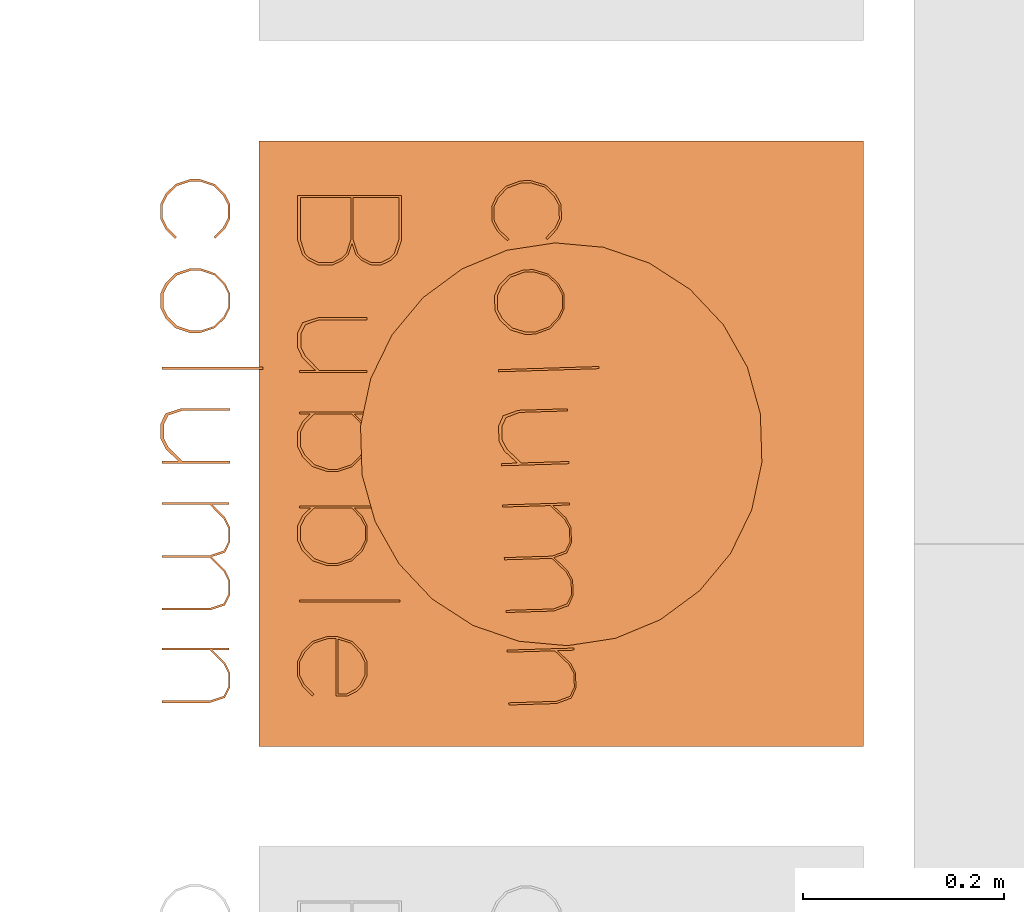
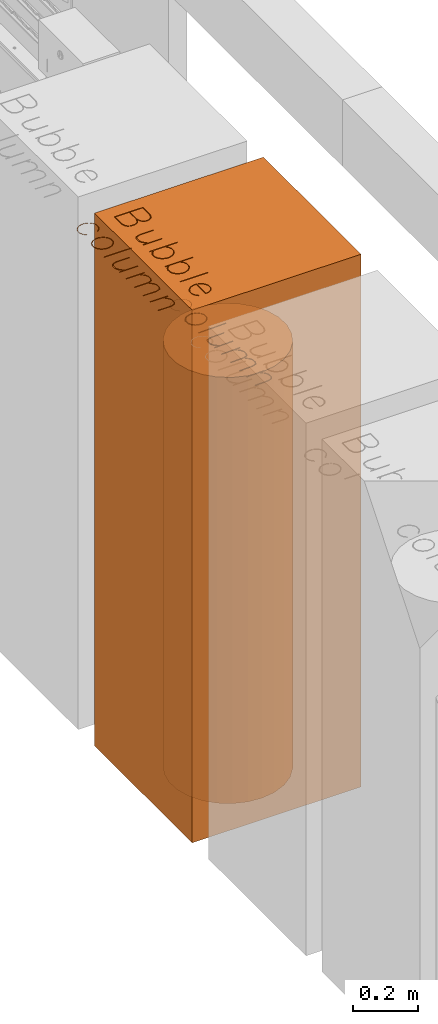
# One storey, part 10 of 43: 2 proxies.
"""IFC2X3 building model written with IfcOpenShell, lengths in metres."""

from ifc_helpers import new_model, entity, si_unit, converted_unit, derived_unit, direction, frame, origin, place, context, subcontext, project, spatial, face_set, surface_model, source, transform, mapped, material, material_list, type_object, type_shapes, element, save


model = new_model("IFC2X3")

# Units and contexts
model_context = context("Model", 3, precision=1e-05, world=origin(), true_north=direction((6.12303176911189e-17, 1.0)))
body_context = subcontext(model_context, "Body", "Model", "MODEL_VIEW")
ifc_project = project(units=[si_unit("LENGTHUNIT", "METRE"), si_unit("AREAUNIT", "SQUARE_METRE"), si_unit("VOLUMEUNIT", "CUBIC_METRE"), converted_unit("PLANEANGLEUNIT", "DEGREE", entity("IfcRatioMeasure", 0.0174532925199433), si_unit("PLANEANGLEUNIT", "RADIAN"), dimensions=[0, 0, 0, 0, 0, 0, 0]), si_unit("MASSUNIT", "GRAM", prefix="KILO"), derived_unit("MASSDENSITYUNIT", [(si_unit("MASSUNIT", "GRAM", prefix="KILO"), 1), (si_unit("LENGTHUNIT", "METRE"), -3)]), derived_unit("MOMENTOFINERTIAUNIT", [(si_unit("LENGTHUNIT", "METRE"), 4)]), si_unit("TIMEUNIT", "SECOND"), si_unit("FREQUENCYUNIT", "HERTZ"), si_unit("THERMODYNAMICTEMPERATUREUNIT", "DEGREE_CELSIUS"), derived_unit("THERMALTRANSMITTANCEUNIT", [(si_unit("MASSUNIT", "GRAM", prefix="KILO"), 1), (si_unit("THERMODYNAMICTEMPERATUREUNIT", "KELVIN"), -1), (si_unit("TIMEUNIT", "SECOND"), -3)]), derived_unit("VOLUMETRICFLOWRATEUNIT", [(si_unit("LENGTHUNIT", "METRE"), 3), (si_unit("TIMEUNIT", "SECOND"), -1)]), si_unit("ELECTRICCURRENTUNIT", "AMPERE"), si_unit("ELECTRICVOLTAGEUNIT", "VOLT"), si_unit("POWERUNIT", "WATT"), si_unit("FORCEUNIT", "NEWTON", prefix="KILO"), si_unit("ILLUMINANCEUNIT", "LUX"), si_unit("LUMINOUSFLUXUNIT", "LUMEN"), si_unit("LUMINOUSINTENSITYUNIT", "CANDELA"), derived_unit("USERDEFINED", [(si_unit("MASSUNIT", "GRAM", prefix="KILO"), -1), (si_unit("LENGTHUNIT", "METRE"), -2), (si_unit("TIMEUNIT", "SECOND"), 3), (si_unit("LUMINOUSFLUXUNIT", "LUMEN"), 1)]), derived_unit("LINEARVELOCITYUNIT", [(si_unit("LENGTHUNIT", "METRE"), 1), (si_unit("TIMEUNIT", "SECOND"), -1)]), si_unit("PRESSUREUNIT", "PASCAL"), derived_unit("USERDEFINED", [(si_unit("LENGTHUNIT", "METRE"), -2), (si_unit("MASSUNIT", "GRAM", prefix="KILO"), 1), (si_unit("TIMEUNIT", "SECOND"), -2)]), derived_unit("LINEARFORCEUNIT", [(si_unit("MASSUNIT", "GRAM", prefix="KILO"), 1), (si_unit("LENGTHUNIT", "METRE"), 1), (si_unit("TIMEUNIT", "SECOND"), -2), (si_unit("LENGTHUNIT", "METRE"), -1)]), derived_unit("PLANARFORCEUNIT", [(si_unit("MASSUNIT", "GRAM", prefix="KILO"), 1), (si_unit("LENGTHUNIT", "METRE"), 1), (si_unit("TIMEUNIT", "SECOND"), -2), (si_unit("LENGTHUNIT", "METRE"), -2)])], contexts=[model_context])

# Site, building, storey
site_placement = place(None, origin())
site = spatial("IfcSite", under=ifc_project, at=site_placement, Name="Default", CompositionType="ELEMENT")
building_placement = place(site_placement, origin())
building = spatial("IfcBuilding", under=site, at=building_placement, CompositionType="ELEMENT")
storey_placement = place(building_placement, frame((0.0, 0.0, 3.0)))
storey = spatial("IfcBuildingStorey", under=building, at=storey_placement, Name="01 OG", CompositionType="ELEMENT", Elevation=3.0)

# Proxies
ifc_material_1 = material(Name="dh_Stellfläche")
building_element_proxy_type_1 = type_object("IfcBuildingElementProxyType", Name="dh_Gerät_Stellfläche Bestand:Nutzergerät", PredefinedType="NOTDEFINED", material=ifc_material_1)
shared_shape_1 = source(origin(), body_context, "Body", "SurfaceModel", [
    surface_model("IfcFaceBasedSurfaceModel", [(-0.199099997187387, -0.507671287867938, 2.005), (-0.187681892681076, -0.503831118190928, 2.005), (-0.182484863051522, -0.498736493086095, 2.005), (-0.177569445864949, -0.488726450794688, 2.005), (-0.177569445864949, -0.478511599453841, 2.005), (-0.182484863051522, -0.468424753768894, 2.005), (-0.187681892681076, -0.46338133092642, 2.005), (-0.202351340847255, -0.458414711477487, 2.005), (-0.246385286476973, -0.458414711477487, 2.005), (-0.246385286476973, -0.561638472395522, 2.005), (-0.202351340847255, -0.561638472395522, 2.005), (-0.187681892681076, -0.556799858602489, 2.005), (-0.182484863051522, -0.551679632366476, 2.005), (-0.177569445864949, -0.541669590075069, 2.005), (-0.177569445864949, -0.526692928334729, 2.005), (-0.182484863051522, -0.516606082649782, 2.005), (-0.187681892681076, -0.511511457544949, 2.005), (-0.202607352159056, -0.508746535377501, 2.005), (-0.188731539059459, -0.513329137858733, 2.005), (-0.184353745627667, -0.517834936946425, 2.005), (-0.179771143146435, -0.52692333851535, 2.005), (-0.179771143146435, -0.540671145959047, 2.005), (-0.184353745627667, -0.549785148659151, 2.005), (-0.188731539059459, -0.554290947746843, 2.005), (-0.202607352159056, -0.558873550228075, 2.005), (-0.244260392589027, -0.558873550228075, 2.005), (-0.244260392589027, -0.508746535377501, 2.005), (-0.244260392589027, -0.506544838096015, 2.005), (-0.244260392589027, -0.461128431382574, 2.005), (-0.202607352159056, -0.461128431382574, 2.005), (-0.188731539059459, -0.465711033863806, 2.005), (-0.184353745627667, -0.470216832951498, 2.005), (-0.179771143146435, -0.479330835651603, 2.005), (-0.179771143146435, -0.488291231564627, 2.005), (-0.184353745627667, -0.497456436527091, 2.005), (-0.188731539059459, -0.501885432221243, 2.005), (-0.202607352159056, -0.506544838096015, 2.005), (-0.0728096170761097, -0.543922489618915, 2.005), (-0.0728096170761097, -0.559999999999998, 2.005), (-0.0706079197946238, -0.559999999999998, 2.005), (-0.0706079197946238, -0.492822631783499, 2.005), (-0.0728096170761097, -0.492822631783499, 2.005), (-0.0728096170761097, -0.540031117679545, 2.005), (-0.0866854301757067, -0.553778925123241, 2.005), (-0.095773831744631, -0.558361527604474, 2.005), (-0.109521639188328, -0.558361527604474, 2.005), (-0.118354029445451, -0.553906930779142, 2.005), (-0.123013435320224, -0.540287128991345, 2.005), (-0.123013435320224, -0.492822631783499, 2.005), (-0.125138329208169, -0.492822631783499, 2.005), (-0.125138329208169, -0.541413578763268, 2.005), (-0.120274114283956, -0.556646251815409, 2.005), (-0.110059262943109, -0.561638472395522, 2.005), (-0.0952362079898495, -0.561638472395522, 2.005), (-0.0852773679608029, -0.556774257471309, 2.005), (-0.0317454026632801, -0.559999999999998, 2.005), (-0.0296205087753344, -0.559999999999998, 2.005), (-0.0296205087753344, -0.548863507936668, 2.005), (-0.0218377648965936, -0.55682545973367, 2.005), (-0.0118789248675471, -0.561638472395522, 2.005), (0.00291852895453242, -0.561638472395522, 2.005), (0.0128261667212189, -0.55682545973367, 2.005), (0.0226570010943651, -0.546866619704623, 2.005), (0.0275724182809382, -0.532094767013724, 2.005), (0.0275724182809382, -0.522212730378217, 2.005), (0.0226570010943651, -0.507440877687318, 2.005), (0.0128261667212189, -0.497482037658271, 2.005), (0.00291852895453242, -0.492617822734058, 2.005), (-0.0118789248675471, -0.492617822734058, 2.005), (-0.0218377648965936, -0.497482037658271, 2.005), (-0.0296205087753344, -0.505367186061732, 2.005), (-0.0296205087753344, -0.460053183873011, 2.005), (-0.0317454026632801, -0.460053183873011, 2.005), (-0.0296205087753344, -0.508004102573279, 2.005), (-0.02045530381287, -0.499043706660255, 2.005), (-0.0113413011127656, -0.494384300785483, 2.005), (0.00240650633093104, -0.494384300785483, 2.005), (0.0114949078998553, -0.499043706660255, 2.005), (0.0207113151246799, -0.50813210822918, 2.005), (0.0253707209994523, -0.522007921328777, 2.005), (0.0253707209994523, -0.531249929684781, 2.005), (0.0207113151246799, -0.545125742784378, 2.005), (0.0114949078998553, -0.554290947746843, 2.005), (0.00240650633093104, -0.558873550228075, 2.005), (-0.0113413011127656, -0.558873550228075, 2.005), (-0.02045530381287, -0.554290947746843, 2.005), (-0.0296205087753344, -0.545253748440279, 2.005), (0.0616475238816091, -0.559999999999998, 2.005), (0.0637724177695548, -0.559999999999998, 2.005), (0.0637724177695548, -0.548863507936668, 2.005), (0.0715551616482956, -0.55682545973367, 2.005), (0.0815140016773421, -0.561638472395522, 2.005), (0.0963114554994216, -0.561638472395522, 2.005), (0.106219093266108, -0.55682545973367, 2.005), (0.116049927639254, -0.546866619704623, 2.005), (0.120965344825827, -0.532094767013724, 2.005), (0.120965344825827, -0.522212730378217, 2.005), (0.116049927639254, -0.507440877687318, 2.005), (0.106219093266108, -0.497482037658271, 2.005), (0.0963114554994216, -0.492617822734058, 2.005), (0.0815140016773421, -0.492617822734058, 2.005), (0.0715551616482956, -0.497482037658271, 2.005), (0.0637724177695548, -0.505367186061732, 2.005), (0.0637724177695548, -0.460053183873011, 2.005), (0.0616475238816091, -0.460053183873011, 2.005), (0.0637724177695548, -0.508004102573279, 2.005), (0.0729376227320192, -0.499043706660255, 2.005), (0.0820516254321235, -0.494384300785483, 2.005), (0.0957994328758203, -0.494384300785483, 2.005), (0.104887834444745, -0.499043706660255, 2.005), (0.114104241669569, -0.50813210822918, 2.005), (0.118763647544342, -0.522007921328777, 2.005), (0.118763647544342, -0.531249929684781, 2.005), (0.114104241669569, -0.545125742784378, 2.005), (0.104887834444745, -0.554290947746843, 2.005), (0.0957994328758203, -0.558873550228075, 2.005), (0.0820516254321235, -0.558873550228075, 2.005), (0.0729376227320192, -0.554290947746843, 2.005), (0.0637724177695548, -0.545253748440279, 2.005), (0.155040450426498, -0.559999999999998, 2.005), (0.157165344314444, -0.559999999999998, 2.005), (0.157165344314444, -0.460053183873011, 2.005), (0.155040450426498, -0.460053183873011, 2.005), (0.250276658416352, -0.547199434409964, 2.005), (0.248612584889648, -0.545535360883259, 2.005), (0.239242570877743, -0.554982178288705, 2.005), (0.230154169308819, -0.559564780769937, 2.005), (0.216406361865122, -0.559564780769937, 2.005), (0.207292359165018, -0.554982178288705, 2.005), (0.197999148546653, -0.54579137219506, 2.005), (0.193416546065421, -0.531889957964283, 2.005), (0.193416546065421, -0.523646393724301, 2.005), (0.250532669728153, -0.523646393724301, 2.005), (0.250532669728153, -0.512714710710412, 2.005), (0.24561725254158, -0.502730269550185, 2.005), (0.240573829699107, -0.497686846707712, 2.005), (0.23066619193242, -0.492822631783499, 2.005), (0.215868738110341, -0.492822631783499, 2.005), (0.205909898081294, -0.497686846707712, 2.005), (0.196155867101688, -0.507671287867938, 2.005), (0.191240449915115, -0.522366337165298, 2.005), (0.191240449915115, -0.532222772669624, 2.005), (0.196155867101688, -0.546917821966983, 2.005), (0.205909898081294, -0.55685106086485, 2.005), (0.215868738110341, -0.561638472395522, 2.005), (0.23066619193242, -0.561638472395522, 2.005), (0.240573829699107, -0.55685106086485, 2.005), (0.193826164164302, -0.521444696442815, 2.005), (0.197999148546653, -0.508746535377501, 2.005), (0.207292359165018, -0.499658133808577, 2.005), (0.216406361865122, -0.494998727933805, 2.005), (0.230154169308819, -0.494998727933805, 2.005), (0.239242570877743, -0.499658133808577, 2.005), (0.243748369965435, -0.504163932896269, 2.005), (0.248330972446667, -0.513277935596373, 2.005), (0.248330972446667, -0.521444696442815, 2.005), (-0.203580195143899, -0.6832458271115, 2.005), (-0.205244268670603, -0.681581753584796, 2.005), (-0.214614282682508, -0.691028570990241, 2.005), (-0.223702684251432, -0.695611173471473, 2.005), (-0.237450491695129, -0.695611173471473, 2.005), (-0.246564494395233, -0.691028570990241, 2.005), (-0.255857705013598, -0.681837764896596, 2.005), (-0.26044030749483, -0.667936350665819, 2.005), (-0.26044030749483, -0.658694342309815, 2.005), (-0.255857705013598, -0.644767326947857, 2.005), (-0.246564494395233, -0.635653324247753, 2.005), (-0.237450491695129, -0.630993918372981, 2.005), (-0.223702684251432, -0.630993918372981, 2.005), (-0.214614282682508, -0.635653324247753, 2.005), (-0.205244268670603, -0.645048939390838, 2.005), (-0.203580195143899, -0.643436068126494, 2.005), (-0.213283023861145, -0.633733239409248, 2.005), (-0.223190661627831, -0.628869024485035, 2.005), (-0.237988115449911, -0.628869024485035, 2.005), (-0.247946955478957, -0.633733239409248, 2.005), (-0.257700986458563, -0.643717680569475, 2.005), (-0.262616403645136, -0.658412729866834, 2.005), (-0.262616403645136, -0.66826916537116, 2.005), (-0.257700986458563, -0.682964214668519, 2.005), (-0.247946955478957, -0.692897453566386, 2.005), (-0.237988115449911, -0.697684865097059, 2.005), (-0.223190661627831, -0.697684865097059, 2.005), (-0.213283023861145, -0.692897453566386, 2.005), (-0.114974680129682, -0.682964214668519, 2.005), (-0.110059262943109, -0.66826916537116, 2.005), (-0.110059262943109, -0.658412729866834, 2.005), (-0.114974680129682, -0.643717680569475, 2.005), (-0.124805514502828, -0.633733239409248, 2.005), (-0.134713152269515, -0.628869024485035, 2.005), (-0.149510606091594, -0.628869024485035, 2.005), (-0.159469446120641, -0.633733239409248, 2.005), (-0.169223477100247, -0.643717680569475, 2.005), (-0.17413889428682, -0.658412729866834, 2.005), (-0.17413889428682, -0.66826916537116, 2.005), (-0.169223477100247, -0.682964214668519, 2.005), (-0.159469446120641, -0.692897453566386, 2.005), (-0.149510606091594, -0.697684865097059, 2.005), (-0.134713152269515, -0.697684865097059, 2.005), (-0.124805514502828, -0.692897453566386, 2.005), (-0.116920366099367, -0.681172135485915, 2.005), (-0.126136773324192, -0.690337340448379, 2.005), (-0.135225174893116, -0.694919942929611, 2.005), (-0.148972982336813, -0.694919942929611, 2.005), (-0.158086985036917, -0.690337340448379, 2.005), (-0.167380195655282, -0.681172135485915, 2.005), (-0.171962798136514, -0.667296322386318, 2.005), (-0.171962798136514, -0.658054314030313, 2.005), (-0.167380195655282, -0.644178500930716, 2.005), (-0.158086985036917, -0.635090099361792, 2.005), (-0.148972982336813, -0.630430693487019, 2.005), (-0.135225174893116, -0.630430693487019, 2.005), (-0.126136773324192, -0.635090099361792, 2.005), (-0.116920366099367, -0.644178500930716, 2.005), (-0.112260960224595, -0.658054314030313, 2.005), (-0.112260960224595, -0.667296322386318, 2.005), (-0.0759841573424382, -0.696046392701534, 2.005), (-0.0738592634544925, -0.696046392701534, 2.005), (-0.0738592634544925, -0.596099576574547, 2.005), (-0.0759841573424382, -0.596099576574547, 2.005), (0.0173063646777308, -0.679968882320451, 2.005), (0.0173063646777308, -0.696046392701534, 2.005), (0.0195080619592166, -0.696046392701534, 2.005), (0.0195080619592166, -0.628869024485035, 2.005), (0.0173063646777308, -0.628869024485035, 2.005), (0.0173063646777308, -0.676077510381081, 2.005), (0.00343055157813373, -0.689825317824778, 2.005), (-0.00565784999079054, -0.69440792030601, 2.005), (-0.0194056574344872, -0.69440792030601, 2.005), (-0.0282380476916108, -0.689953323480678, 2.005), (-0.0328974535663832, -0.676333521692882, 2.005), (-0.0328974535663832, -0.628869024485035, 2.005), (-0.0350223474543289, -0.628869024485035, 2.005), (-0.0350223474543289, -0.677459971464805, 2.005), (-0.0301581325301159, -0.692692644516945, 2.005), (-0.0199432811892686, -0.697684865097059, 2.005), (-0.00512022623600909, -0.697684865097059, 2.005), (0.00483861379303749, -0.692820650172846, 2.005), (0.0583705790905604, -0.696046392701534, 2.005), (0.060495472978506, -0.696046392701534, 2.005), (0.060495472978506, -0.648837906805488, 2.005), (0.0743968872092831, -0.635090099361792, 2.005), (0.0835364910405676, -0.630430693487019, 2.005), (0.0972330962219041, -0.630430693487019, 2.005), (0.106116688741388, -0.634962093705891, 2.005), (0.11069929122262, -0.648556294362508, 2.005), (0.11069929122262, -0.696046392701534, 2.005), (0.112900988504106, -0.696046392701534, 2.005), (0.112900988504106, -0.648837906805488, 2.005), (0.126776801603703, -0.635090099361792, 2.005), (0.135865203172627, -0.630430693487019, 2.005), (0.149613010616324, -0.630430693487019, 2.005), (0.158445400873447, -0.634962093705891, 2.005), (0.16310480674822, -0.648556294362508, 2.005), (0.16310480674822, -0.696046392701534, 2.005), (0.165229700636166, -0.696046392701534, 2.005), (0.165229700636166, -0.648684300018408, 2.005), (0.160365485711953, -0.633810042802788, 2.005), (0.150150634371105, -0.628869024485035, 2.005), (0.135353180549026, -0.628869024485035, 2.005), (0.125394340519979, -0.633682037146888, 2.005), (0.112235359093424, -0.646789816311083, 2.005), (0.107985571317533, -0.633810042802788, 2.005), (0.0978219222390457, -0.628869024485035, 2.005), (0.082947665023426, -0.628869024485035, 2.005), (0.0730656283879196, -0.633682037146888, 2.005), (0.060495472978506, -0.646252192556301, 2.005), (0.060495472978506, -0.629790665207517, 2.005), (0.0583705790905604, -0.629790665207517, 2.005), (0.202556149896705, -0.696046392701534, 2.005), (0.204681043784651, -0.696046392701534, 2.005), (0.204681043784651, -0.648837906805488, 2.005), (0.218582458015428, -0.635090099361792, 2.005), (0.227722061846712, -0.630430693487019, 2.005), (0.241418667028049, -0.630430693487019, 2.005), (0.250302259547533, -0.634962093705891, 2.005), (0.254884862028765, -0.648556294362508, 2.005), (0.254884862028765, -0.696046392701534, 2.005), (0.257086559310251, -0.696046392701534, 2.005), (0.257086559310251, -0.648684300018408, 2.005), (0.252171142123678, -0.633810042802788, 2.005), (0.24200749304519, -0.628869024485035, 2.005), (0.227133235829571, -0.628869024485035, 2.005), (0.217251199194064, -0.633682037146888, 2.005), (0.204681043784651, -0.646252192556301, 2.005), (0.204681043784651, -0.629790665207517, 2.005), (0.202556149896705, -0.629790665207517, 2.005), (0.300483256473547, 0.0, 2.0), (0.300483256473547, -0.600000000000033, 2.0), (-0.300483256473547, -0.600000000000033, 2.0), (-0.300483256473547, 0.0, 2.0), (0.300483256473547, 0.0, 0.0), (0.300483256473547, -0.600000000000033, 0.0), (-0.300483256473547, -0.600000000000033, 0.0), (-0.300483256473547, 0.0, 0.0)], [face_set([[[0, 1, 2, 3, 4, 5, 6, 7, 8, 9, 10, 11, 12, 13, 14, 15, 16], [17, 18, 19, 20, 21, 22, 23, 24, 25, 26], [27, 28, 29, 30, 31, 32, 33, 34, 35, 36]]]), face_set([[[37, 38, 39, 40, 41, 42, 43, 44, 45, 46, 47, 48, 49, 50, 51, 52, 53, 54]]]), face_set([[[55, 56, 57, 58, 59, 60, 61, 62, 63, 64, 65, 66, 67, 68, 69, 70, 71, 72], [73, 74, 75, 76, 77, 78, 79, 80, 81, 82, 83, 84, 85, 86]]]), face_set([[[87, 88, 89, 90, 91, 92, 93, 94, 95, 96, 97, 98, 99, 100, 101, 102, 103, 104], [105, 106, 107, 108, 109, 110, 111, 112, 113, 114, 115, 116, 117, 118]]]), face_set([[[119, 120, 121, 122]]]), face_set([[[123, 124, 125, 126, 127, 128, 129, 130, 131, 132, 133, 134, 135, 136, 137, 138, 139, 140, 141, 142, 143, 144, 145, 146], [147, 148, 149, 150, 151, 152, 153, 154, 155]]]), face_set([[[156, 157, 158, 159, 160, 161, 162, 163, 164, 165, 166, 167, 168, 169, 170, 171, 172, 173, 174, 175, 176, 177, 178, 179, 180, 181, 182, 183]]]), face_set([[[184, 185, 186, 187, 188, 189, 190, 191, 192, 193, 194, 195, 196, 197, 198, 199], [200, 201, 202, 203, 204, 205, 206, 207, 208, 209, 210, 211, 212, 213, 214, 215]]]), face_set([[[216, 217, 218, 219]]]), face_set([[[220, 221, 222, 223, 224, 225, 226, 227, 228, 229, 230, 231, 232, 233, 234, 235, 236, 237]]]), face_set([[[238, 239, 240, 241, 242, 243, 244, 245, 246, 247, 248, 249, 250, 251, 252, 253, 254, 255, 256, 257, 258, 259, 260, 261, 262, 263, 264, 265, 266, 267, 268]]]), face_set([[[269, 270, 271, 272, 273, 274, 275, 276, 277, 278, 279, 280, 281, 282, 283, 284, 285, 286]]]), face_set([[[287, 288, 289, 290]], [[291, 292, 293, 294]], [[290, 287, 291, 294]], [[289, 290, 294, 293]], [[288, 292, 293, 289]], [[287, 288, 292, 291]]])]),
])
type_shapes(building_element_proxy_type_1, [shared_shape_1])
proxy_1_placement = place(storey_placement, frame((16.8600000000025, 13.7235167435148, 0.7), z_axis=(0.0, 0.0, 1.0), x_axis=(0.0, -1.0, 0.0)))
element("IfcBuildingElementProxy", 1, at=proxy_1_placement, inside=storey, type_object=building_element_proxy_type_1, material=ifc_material_1, Name="dh_Gerät_Stellfläche Bestand:Nutzergerät", ObjectType="dh_Gerät_Stellfläche Bestand:Nutzergerät", context=body_context, shape_type="MappedRepresentation", body=[
    mapped(shared_shape_1, transform((0.0, 0.0, 0.0), scale=1.0)),
])
ifc_material_2 = material(Name="Kunststoff, undurchsichtig schwarz")
ifc_material_list = material_list([ifc_material_2, ifc_material_1])
building_element_proxy_type_2 = type_object("IfcBuildingElementProxyType", Name="dh_Gerät_Stellfläche Bestand_rund:Nutzergerät", PredefinedType="NOTDEFINED", material=ifc_material_list)
shared_shape_2 = source(origin(), body_context, "Body", "SurfaceModel", [
    surface_model("IfcFaceBasedSurfaceModel", [(0.0590362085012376, 0.152937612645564, 1.605), (0.0573721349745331, 0.154601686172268, 1.605), (0.0480021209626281, 0.145154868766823, 1.605), (0.0389137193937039, 0.140572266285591, 1.605), (0.0251659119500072, 0.140572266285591, 1.605), (0.0160519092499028, 0.145154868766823, 1.605), (0.00675869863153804, 0.154345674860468, 1.605), (0.00217609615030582, 0.168247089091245, 1.605), (0.00217609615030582, 0.177489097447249, 1.605), (0.00675869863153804, 0.191416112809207, 1.605), (0.0160519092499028, 0.200530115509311, 1.605), (0.0251659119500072, 0.205189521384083, 1.605), (0.0389137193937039, 0.205189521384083, 1.605), (0.0480021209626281, 0.200530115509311, 1.605), (0.0573721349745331, 0.191134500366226, 1.605), (0.0590362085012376, 0.19274737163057, 1.605), (0.0493333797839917, 0.202450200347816, 1.605), (0.0394257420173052, 0.207314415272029, 1.605), (0.0246282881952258, 0.207314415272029, 1.605), (0.0146694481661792, 0.202450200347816, 1.605), (0.00491541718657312, 0.192465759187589, 1.605), (0.0, 0.17777070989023, 1.605), (0.0, 0.167914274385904, 1.605), (0.00491541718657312, 0.153219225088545, 1.605), (0.0146694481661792, 0.143285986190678, 1.605), (0.0246282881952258, 0.138498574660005, 1.605), (0.0394257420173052, 0.138498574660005, 1.605), (0.0493333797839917, 0.143285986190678, 1.605), (0.147641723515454, 0.153219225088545, 1.605), (0.152557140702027, 0.167914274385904, 1.605), (0.152557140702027, 0.17777070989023, 1.605), (0.147641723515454, 0.192465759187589, 1.605), (0.137810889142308, 0.202450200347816, 1.605), (0.127903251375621, 0.207314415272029, 1.605), (0.113105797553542, 0.207314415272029, 1.605), (0.103146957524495, 0.202450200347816, 1.605), (0.0933929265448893, 0.192465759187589, 1.605), (0.0884775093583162, 0.17777070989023, 1.605), (0.0884775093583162, 0.167914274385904, 1.605), (0.0933929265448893, 0.153219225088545, 1.605), (0.103146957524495, 0.143285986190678, 1.605), (0.113105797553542, 0.138498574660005, 1.605), (0.127903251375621, 0.138498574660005, 1.605), (0.137810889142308, 0.143285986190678, 1.605), (0.145696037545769, 0.155011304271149, 1.605), (0.136479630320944, 0.145846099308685, 1.605), (0.12739122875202, 0.141263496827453, 1.605), (0.113643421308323, 0.141263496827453, 1.605), (0.104529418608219, 0.145846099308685, 1.605), (0.0952362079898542, 0.155011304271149, 1.605), (0.0906536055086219, 0.168887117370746, 1.605), (0.0906536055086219, 0.178129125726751, 1.605), (0.0952362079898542, 0.192004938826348, 1.605), (0.104529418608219, 0.201093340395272, 1.605), (0.113643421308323, 0.205752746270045, 1.605), (0.12739122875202, 0.205752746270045, 1.605), (0.136479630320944, 0.201093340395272, 1.605), (0.145696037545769, 0.192004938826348, 1.605), (0.150355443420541, 0.178129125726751, 1.605), (0.150355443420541, 0.168887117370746, 1.605), (0.186632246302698, 0.14013704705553, 1.605), (0.188757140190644, 0.14013704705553, 1.605), (0.188757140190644, 0.240083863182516, 1.605), (0.186632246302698, 0.240083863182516, 1.605), (0.279922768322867, 0.156214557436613, 1.605), (0.279922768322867, 0.14013704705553, 1.605), (0.282124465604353, 0.14013704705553, 1.605), (0.282124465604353, 0.207314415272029, 1.605), (0.279922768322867, 0.207314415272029, 1.605), (0.279922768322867, 0.160105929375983, 1.605), (0.26604695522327, 0.146358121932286, 1.605), (0.256958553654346, 0.141775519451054, 1.605), (0.243210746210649, 0.141775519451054, 1.605), (0.234378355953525, 0.146230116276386, 1.605), (0.229718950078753, 0.159849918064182, 1.605), (0.229718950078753, 0.207314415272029, 1.605), (0.227594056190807, 0.207314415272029, 1.605), (0.227594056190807, 0.158723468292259, 1.605), (0.23245827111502, 0.143490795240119, 1.605), (0.242673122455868, 0.138498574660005, 1.605), (0.257496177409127, 0.138498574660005, 1.605), (0.267455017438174, 0.143362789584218, 1.605), (0.320986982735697, 0.14013704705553, 1.605), (0.323111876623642, 0.14013704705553, 1.605), (0.323111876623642, 0.187345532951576, 1.605), (0.337013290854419, 0.201093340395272, 1.605), (0.346152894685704, 0.205752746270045, 1.605), (0.35984949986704, 0.205752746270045, 1.605), (0.368733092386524, 0.201221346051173, 1.605), (0.373315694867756, 0.187627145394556, 1.605), (0.373315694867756, 0.14013704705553, 1.605), (0.375517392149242, 0.14013704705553, 1.605), (0.375517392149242, 0.187345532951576, 1.605), (0.389393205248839, 0.201093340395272, 1.605), (0.398481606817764, 0.205752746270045, 1.605), (0.41222941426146, 0.205752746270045, 1.605), (0.421061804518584, 0.201221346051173, 1.605), (0.425721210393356, 0.187627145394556, 1.605), (0.425721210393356, 0.14013704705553, 1.605), (0.427846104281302, 0.14013704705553, 1.605), (0.427846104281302, 0.187499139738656, 1.605), (0.422981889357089, 0.202373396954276, 1.605), (0.412767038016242, 0.207314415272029, 1.605), (0.397969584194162, 0.207314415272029, 1.605), (0.388010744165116, 0.202501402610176, 1.605), (0.37485176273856, 0.189393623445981, 1.605), (0.370601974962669, 0.202373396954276, 1.605), (0.360438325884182, 0.207314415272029, 1.605), (0.345564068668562, 0.207314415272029, 1.605), (0.335682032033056, 0.202501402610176, 1.605), (0.323111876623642, 0.189931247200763, 1.605), (0.323111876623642, 0.206392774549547, 1.605), (0.320986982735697, 0.206392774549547, 1.605), (0.465172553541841, 0.14013704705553, 1.605), (0.467297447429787, 0.14013704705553, 1.605), (0.467297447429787, 0.187345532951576, 1.605), (0.481198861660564, 0.201093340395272, 1.605), (0.490338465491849, 0.205752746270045, 1.605), (0.504035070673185, 0.205752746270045, 1.605), (0.512918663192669, 0.201221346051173, 1.605), (0.517501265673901, 0.187627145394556, 1.605), (0.517501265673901, 0.14013704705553, 1.605), (0.519702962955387, 0.14013704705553, 1.605), (0.519702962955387, 0.187499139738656, 1.605), (0.514787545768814, 0.202373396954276, 1.605), (0.504623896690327, 0.207314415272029, 1.605), (0.489749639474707, 0.207314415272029, 1.605), (0.479867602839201, 0.202501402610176, 1.605), (0.467297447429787, 0.189931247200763, 1.605), (0.467297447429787, 0.206392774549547, 1.605), (0.465172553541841, 0.206392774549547, 1.605)], [face_set([[[0, 1, 2, 3, 4, 5, 6, 7, 8, 9, 10, 11, 12, 13, 14, 15, 16, 17, 18, 19, 20, 21, 22, 23, 24, 25, 26, 27]]]), face_set([[[28, 29, 30, 31, 32, 33, 34, 35, 36, 37, 38, 39, 40, 41, 42, 43], [44, 45, 46, 47, 48, 49, 50, 51, 52, 53, 54, 55, 56, 57, 58, 59]]]), face_set([[[60, 61, 62, 63]]]), face_set([[[64, 65, 66, 67, 68, 69, 70, 71, 72, 73, 74, 75, 76, 77, 78, 79, 80, 81]]]), face_set([[[82, 83, 84, 85, 86, 87, 88, 89, 90, 91, 92, 93, 94, 95, 96, 97, 98, 99, 100, 101, 102, 103, 104, 105, 106, 107, 108, 109, 110, 111, 112]]]), face_set([[[113, 114, 115, 116, 117, 118, 119, 120, 121, 122, 123, 124, 125, 126, 127, 128, 129, 130]]])]),
    surface_model("IfcFaceBasedSurfaceModel", [(0.462616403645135, 0.200137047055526, 1.6), (0.456804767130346, 0.152273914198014, 1.6), (0.439707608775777, 0.107192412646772, 1.6), (0.412318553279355, 0.067512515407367, 1.6), (0.376229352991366, 0.035540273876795, 1.6), (0.333537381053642, 0.0131337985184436, 1.6), (0.286723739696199, 0.00159527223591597, 1.6), (0.23850906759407, 0.00159527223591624, 1.6), (0.191695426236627, 0.0131337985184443, 1.6), (0.149003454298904, 0.0355402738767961, 1.6), (0.112914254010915, 0.0675125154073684, 1.6), (0.0855251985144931, 0.107192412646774, 1.6), (0.0684280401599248, 0.152273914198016, 1.6), (0.0626164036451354, 0.200137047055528, 1.6), (0.0684280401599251, 0.248000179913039, 1.6), (0.0855251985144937, 0.293081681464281, 1.6), (0.112914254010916, 0.332761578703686, 1.6), (0.149003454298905, 0.364733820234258, 1.6), (0.191695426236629, 0.38714029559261, 1.6), (0.238509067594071, 0.398678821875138, 1.6), (0.2867237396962, 0.398678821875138, 1.6), (0.333537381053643, 0.38714029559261, 1.6), (0.376229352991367, 0.364733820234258, 1.6), (0.412318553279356, 0.332761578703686, 1.6), (0.439707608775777, 0.293081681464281, 1.6), (0.456804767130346, 0.248000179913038, 1.6), (0.462616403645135, 0.200137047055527, 0.0), (0.456804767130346, 0.152273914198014, 0.0), (0.439707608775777, 0.107192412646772, 0.0), (0.412318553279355, 0.067512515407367, 0.0), (0.376229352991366, 0.035540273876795, 0.0), (0.333537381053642, 0.0131337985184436, 0.0), (0.286723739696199, 0.00159527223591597, 0.0), (0.23850906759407, 0.00159527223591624, 0.0), (0.191695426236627, 0.0131337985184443, 0.0), (0.149003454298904, 0.0355402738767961, 0.0), (0.112914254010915, 0.0675125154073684, 0.0), (0.0855251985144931, 0.107192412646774, 0.0), (0.0684280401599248, 0.152273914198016, 0.0), (0.0626164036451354, 0.200137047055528, 0.0), (0.0684280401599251, 0.248000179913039, 0.0), (0.0855251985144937, 0.293081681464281, 0.0), (0.112914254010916, 0.332761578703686, 0.0), (0.149003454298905, 0.364733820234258, 0.0), (0.191695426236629, 0.38714029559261, 0.0), (0.238509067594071, 0.398678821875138, 0.0), (0.2867237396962, 0.398678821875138, 0.0), (0.333537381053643, 0.38714029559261, 0.0), (0.376229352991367, 0.364733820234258, 0.0), (0.412318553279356, 0.332761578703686, 0.0), (0.439707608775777, 0.293081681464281, 0.0), (0.456804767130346, 0.248000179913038, 0.0)], [face_set([[[0, 1, 2, 3, 4, 5, 6, 7, 8, 9, 10, 11, 12, 13, 14, 15, 16, 17, 18, 19, 20, 21, 22, 23, 24, 25]], [[26, 27, 28, 29, 30, 31, 32, 33, 34, 35, 36, 37, 38, 39, 40, 41, 42, 43, 44, 45, 46, 47, 48, 49, 50, 51]], [[13, 39, 38, 12]], [[12, 38, 37, 11]], [[9, 35, 34, 8]], [[10, 36, 35, 9]], [[11, 37, 36, 10]], [[8, 34, 33, 7]], [[7, 33, 32, 6]], [[6, 32, 31, 5]], [[5, 31, 30, 4]], [[2, 28, 27, 1]], [[3, 29, 28, 2]], [[4, 30, 29, 3]], [[1, 27, 26, 0]], [[25, 51, 50, 24]], [[26, 51, 25, 0]], [[22, 48, 47, 21]], [[23, 49, 48, 22]], [[24, 50, 49, 23]], [[21, 47, 46, 20]], [[20, 46, 45, 19]], [[19, 45, 44, 18]], [[18, 44, 43, 17]], [[15, 41, 40, 14]], [[16, 42, 41, 15]], [[17, 43, 42, 16]], [[14, 40, 39, 13]]])]),
])
type_shapes(building_element_proxy_type_2, [shared_shape_2])
proxy_2_placement = place(storey_placement, frame((16.35185157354, 13.9793466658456, 0.7), z_axis=(0.0, 0.0, 1.0), x_axis=(0.0308691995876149, -0.999523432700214, 0.0)))
element("IfcBuildingElementProxy", 2, at=proxy_2_placement, inside=storey, type_object=building_element_proxy_type_2, material=ifc_material_1, Name="dh_Gerät_Stellfläche Bestand_rund:Nutzergerät", ObjectType="dh_Gerät_Stellfläche Bestand_rund:Nutzergerät", context=body_context, shape_type="MappedRepresentation", body=[
    mapped(shared_shape_2, transform((0.0, 0.0, 0.0), scale=1.0)),
])

save(model, "model.ifc")
